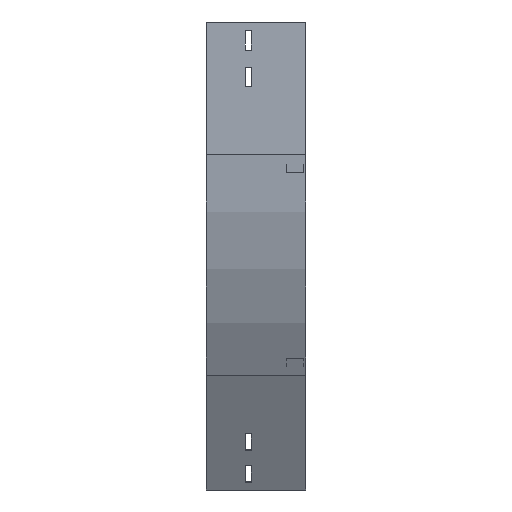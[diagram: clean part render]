
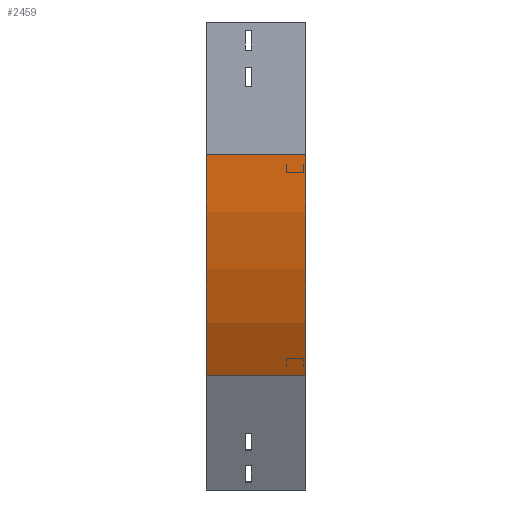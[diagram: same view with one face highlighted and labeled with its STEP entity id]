
A CAD part, left-side view. The second image highlights one B-rep face of the part: STEP entity #2459.
In plain terms, the highlighted cylindrical face has radius 500 mm (diameter 1000 mm), a partial arc.
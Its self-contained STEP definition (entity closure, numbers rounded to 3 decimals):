
#116 = VERTEX_POINT ( 'NONE', #3087 ) ;
#241 = ORIENTED_EDGE ( 'NONE', *, *, #1392, .F. ) ;
#391 = VERTEX_POINT ( 'NONE', #2061 ) ;
#475 = VERTEX_POINT ( 'NONE', #1460 ) ;
#568 = CARTESIAN_POINT ( 'NONE',  ( 0., 0., -150. ) ) ;
#569 = CIRCLE ( 'NONE', #2920, 500. ) ;
#749 = DIRECTION ( 'NONE',  ( 0., -1., 0. ) ) ;
#881 = CYLINDRICAL_SURFACE ( 'NONE', #1928, 500. ) ;
#919 = EDGE_CURVE ( 'NONE', #116, #475, #3683, .T. ) ;
#1022 = CARTESIAN_POINT ( 'NONE',  ( 0., 0., -150. ) ) ;
#1039 = VERTEX_POINT ( 'NONE', #568 ) ;
#1285 = DIRECTION ( 'NONE',  ( 0., -1., 0. ) ) ;
#1392 = EDGE_CURVE ( 'NONE', #116, #1039, #2760, .T. ) ;
#1460 = CARTESIAN_POINT ( 'NONE',  ( 66.987, 112.5, -400. ) ) ;
#1612 = AXIS2_PLACEMENT_3D ( 'NONE', #2238, #3666, #2199 ) ;
#1657 = ORIENTED_EDGE ( 'NONE', *, *, #3015, .F. ) ;
#1830 = CARTESIAN_POINT ( 'NONE',  ( 66.987, 0., -400. ) ) ;
#1872 = DIRECTION ( 'NONE',  ( -1., 0., 0. ) ) ;
#1913 = VECTOR ( 'NONE', #1285, 1000. ) ;
#1928 = AXIS2_PLACEMENT_3D ( 'NONE', #2050, #3237, #2413 ) ;
#1982 = ORIENTED_EDGE ( 'NONE', *, *, #2202, .T. ) ;
#2050 = CARTESIAN_POINT ( 'NONE',  ( 500., 0., -150. ) ) ;
#2061 = CARTESIAN_POINT ( 'NONE',  ( 66.987, 0., -400. ) ) ;
#2111 = LINE ( 'NONE', #1830, #3491 ) ;
#2199 = DIRECTION ( 'NONE',  ( -1., 0., 0. ) ) ;
#2202 = EDGE_CURVE ( 'NONE', #475, #391, #2111, .T. ) ;
#2238 = CARTESIAN_POINT ( 'NONE',  ( 500., 112.5, -150. ) ) ;
#2301 = ORIENTED_EDGE ( 'NONE', *, *, #919, .T. ) ;
#2413 = DIRECTION ( 'NONE',  ( 0., 0., -1. ) ) ;
#2459 = ADVANCED_FACE ( 'NONE', ( #3535 ), #881, .T. ) ;
#2703 = CARTESIAN_POINT ( 'NONE',  ( 500., 0., -150. ) ) ;
#2760 = LINE ( 'NONE', #1022, #1913 ) ;
#2920 = AXIS2_PLACEMENT_3D ( 'NONE', #2703, #749, #1872 ) ;
#3015 = EDGE_CURVE ( 'NONE', #1039, #391, #569, .T. ) ;
#3025 = DIRECTION ( 'NONE',  ( 0., -1., 0. ) ) ;
#3087 = CARTESIAN_POINT ( 'NONE',  ( 0., 112.5, -150. ) ) ;
#3150 = EDGE_LOOP ( 'NONE', ( #1657, #241, #2301, #1982 ) ) ;
#3237 = DIRECTION ( 'NONE',  ( 0., -1., 0. ) ) ;
#3491 = VECTOR ( 'NONE', #3025, 1000. ) ;
#3535 = FACE_OUTER_BOUND ( 'NONE', #3150, .T. ) ;
#3666 = DIRECTION ( 'NONE',  ( 0., -1., 0. ) ) ;
#3683 = CIRCLE ( 'NONE', #1612, 500. ) ;
